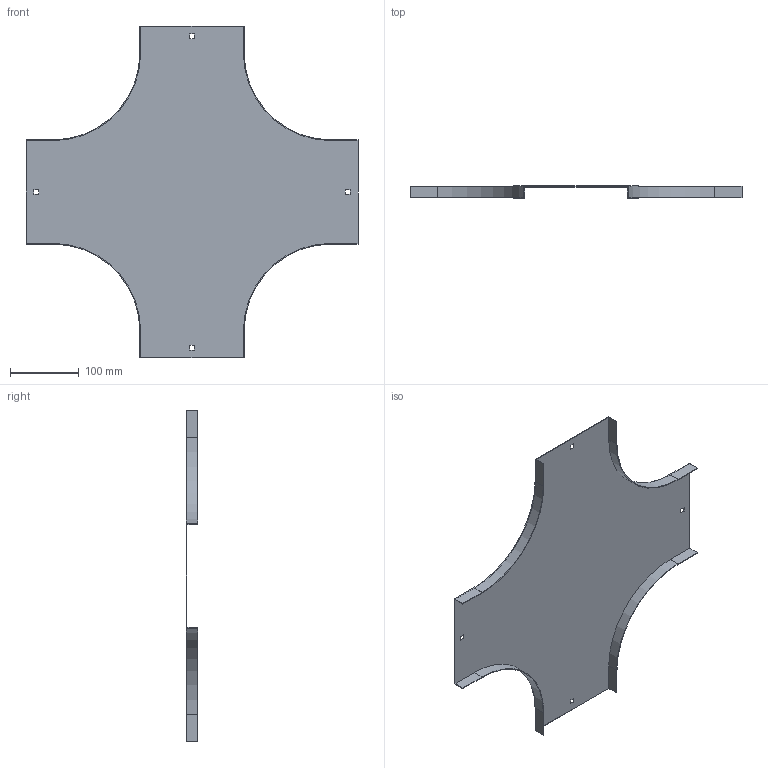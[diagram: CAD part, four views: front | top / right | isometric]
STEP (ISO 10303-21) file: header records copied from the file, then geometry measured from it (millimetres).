
FILE_DESCRIPTION (( 'STEP AP214' ), '1' );
FILE_NAME ('OC_150.step', '2025-07-16T09:10:35', ( '' ), ( '' ), 'SwSTEP 2.0', 'SolidWorks 2023', '' );
FILE_SCHEMA (( 'AUTOMOTIVE_DESIGN' ));
Length unit declared in the file: millimetre
Products named in the file (1): OC_150
Bounding box: 484 x 17 x 484 mm (x, y, z)
Volume: 155329.2 mm3; surface area: 312610.2 mm2
Topology: 1 solids, 1 shells, 50 faces, 144 edges, 96 vertices
Faces by surface type: plane 42, cylinder 8
Entity records: 1663 total; most frequent: CARTESIAN_POINT 291, ORIENTED_EDGE 288, DIRECTION 262, EDGE_CURVE 144, LINE 128, VECTOR 128, VERTEX_POINT 96, AXIS2_PLACEMENT_3D 67
